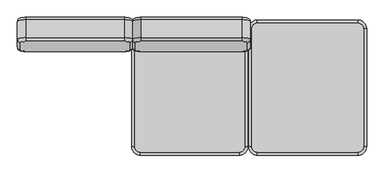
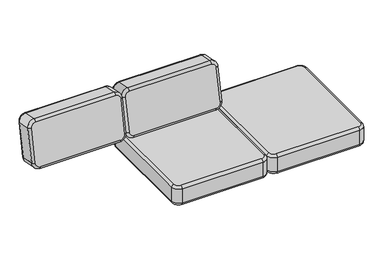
"""IFC4 building model written with IfcOpenShell, lengths in millimetres: furniture geometry, Fredericia - EJ220 Sofa 3 seaters 67 - 2233 : Fredericia - EJ220 Sofa 3 seaters 67 - 2233."""

from ifc_helpers import new_model, si_unit, point, frame, origin, place, context, project, spatial, circle_curve, ellipse_curve, trimmed, source, transform, mapped, element, save
from ifc_brep_helpers import plane_surface, cylinder_surface, revolved_surface, advanced_brep


def furniture_044e4372(model_context):
    return source(origin(), model_context, "Body", "AdvancedBrep", [
        advanced_brep(
        [(-341.0173508, 740.0486118, 455.4641902), (-341.0173508, 636.819047, 475.5299849), (-341.0173508, 681.9225552, 707.5674194), (-341.0173508, 785.1521201, 687.5016246), (-291.0173508, 794.6925699, 736.5829838), (-291.0173508, 691.463005, 756.6487785), (284.3073614, 691.463005, 756.6487785), (284.3073614, 794.6925699, 736.5829838), (334.3073614, 785.1521201, 687.5016246), (334.3073614, 681.9225552, 707.5674194), (334.3073614, 636.819047, 475.5299849), (334.3073614, 740.0486118, 455.4641902), (284.3073614, 730.5081621, 406.382831), (284.3073614, 627.2785972, 426.4486258), (-291.0173508, 627.2785972, 426.4486258), (-291.0173508, 730.5081621, 406.382831), (-323.6851707, 619.8053078, 478.8371208), (-323.6851707, 664.9088161, 710.8745552), (-323.6851707, 802.1658592, 684.1944888), (-323.6851707, 757.062351, 452.1570543), (-291.0173508, 671.14213, 742.9421753), (284.3073614, 671.14213, 742.9421753), (284.3073614, 808.3991731, 716.2621088), (-291.0173508, 808.3991731, 716.2621088), (316.9751814, 664.9088161, 710.8745552), (316.9751814, 619.8053078, 478.8371208), (316.9751814, 757.062351, 452.1570543), (316.9751814, 802.1658592, 684.1944888), (284.3073614, 613.5719939, 446.7695007), (-291.0173508, 613.5719939, 446.7695007), (-291.0173508, 750.8290371, 420.0894343), (284.3073614, 750.8290371, 420.0894343)],
        [
            (0, 1),
            (1, 2),
            (2, 3),
            (3, 0),
            (4, 5),
            (5, 6),
            (6, 7),
            (7, 4),
            (8, 9),
            (9, 10),
            (10, 11),
            (11, 8),
            (12, 13),
            (13, 14),
            (14, 15),
            (15, 12),
            (1, 16, circle_curve(frame((-323.6851707, 636.819047, 475.5299849), z_axis=(0.0, 0.19080899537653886, 0.9816271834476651), x_axis=(1.0, 0.0, 0.0)), 17.3321801)),
            (16, 17),
            (17, 2, circle_curve(frame((-323.6851707, 681.9225552, 707.5674194), z_axis=(0.0, -0.19080899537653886, -0.9816271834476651), x_axis=(1.0, 0.0, 0.0)), 17.3321801)),
            (3, 18, circle_curve(frame((-323.6851707, 785.1521201, 687.5016246), z_axis=(0.0, -0.1908089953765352, -0.981627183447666), x_axis=(1.0, 0.0, 0.0)), 17.3321801)),
            (18, 19),
            (19, 0, circle_curve(frame((-323.6851707, 740.0486118, 455.4641902), z_axis=(0.0, 0.1908089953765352, 0.981627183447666), x_axis=(1.0, 0.0, 0.0)), 17.3321801)),
            (5, 20, circle_curve(frame((-291.0173508, 688.1558691, 739.6350394), z_axis=(1.0, 0.0, 0.0), x_axis=(0.0, -0.1908089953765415, -0.9816271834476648)), 17.3321801)),
            (20, 21),
            (21, 6, circle_curve(frame((284.3073614, 688.1558691, 739.6350394), z_axis=(-1.0, 0.0, 0.0), x_axis=(0.0, -0.1908089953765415, -0.9816271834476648)), 17.3321801)),
            (7, 22, circle_curve(frame((284.3073614, 791.385434, 719.5692447), z_axis=(-1.0, 0.0, 0.0), x_axis=(0.0, -0.19080899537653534, -0.9816271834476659)), 17.3321801)),
            (22, 23),
            (23, 4, circle_curve(frame((-291.0173508, 791.385434, 719.5692447), z_axis=(1.0, 0.0, 0.0), x_axis=(0.0, -0.19080899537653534, -0.9816271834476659)), 17.3321801)),
            (9, 24, circle_curve(frame((316.9751814, 681.9225552, 707.5674194), z_axis=(0.0, -0.1908089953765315, -0.9816271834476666), x_axis=(-1.0, 0.0, 0.0)), 17.3321801)),
            (24, 25),
            (25, 10, circle_curve(frame((316.9751814, 636.819047, 475.5299849), z_axis=(0.0, 0.1908089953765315, 0.9816271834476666), x_axis=(-1.0, 0.0, 0.0)), 17.3321801)),
            (11, 26, circle_curve(frame((316.9751814, 740.0486118, 455.4641902), z_axis=(0.0, 0.19080899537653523, 0.981627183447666), x_axis=(-1.0, 0.0, 0.0)), 17.3321801)),
            (26, 27),
            (27, 8, circle_curve(frame((316.9751814, 785.1521201, 687.5016246), z_axis=(0.0, -0.19080899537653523, -0.981627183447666), x_axis=(-1.0, 0.0, 0.0)), 17.3321801)),
            (13, 28, circle_curve(frame((284.3073614, 630.585733, 443.4623649), z_axis=(-1.0, 0.0, 0.0), x_axis=(0.0, 0.19080899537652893, 0.9816271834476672)), 17.3321801)),
            (28, 29),
            (29, 14, circle_curve(frame((-291.0173508, 630.585733, 443.4623649), z_axis=(1.0, 0.0, 0.0), x_axis=(0.0, 0.19080899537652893, 0.9816271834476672)), 17.3321801)),
            (15, 30, circle_curve(frame((-291.0173508, 733.8152979, 423.3965701), z_axis=(1.0, 0.0, 0.0), x_axis=(0.0, 0.1908089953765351, 0.9816271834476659)), 17.3321801)),
            (30, 31),
            (31, 12, circle_curve(frame((284.3073614, 733.8152979, 423.3965701), z_axis=(-1.0, 0.0, 0.0), x_axis=(0.0, 0.1908089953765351, 0.9816271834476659)), 17.3321801)),
            (1, 14, circle_curve(frame((-291.0173508, 636.819047, 475.5299849), z_axis=(0.0, -0.9816271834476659, 0.1908089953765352), x_axis=(0.0, -0.1908089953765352, -0.9816271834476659)), 50.0)),
            (29, 16, circle_curve(frame((-291.0173508, 619.8053078, 478.8371208), z_axis=(0.0, 0.9816271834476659, -0.1908089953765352), x_axis=(0.0, -0.1908089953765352, -0.9816271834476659)), 32.6678199)),
            (0, 15, circle_curve(frame((-291.0173508, 740.0486118, 455.4641902), z_axis=(0.0, -0.9816271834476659, 0.1908089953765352), x_axis=(0.0, -0.1908089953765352, -0.9816271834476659)), 50.0)),
            (19, 30, circle_curve(frame((-291.0173508, 757.062351, 452.1570543), z_axis=(0.0, -0.9816271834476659, 0.1908089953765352), x_axis=(0.0, -0.1908089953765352, -0.9816271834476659)), 32.6678199)),
            (17, 20, circle_curve(frame((-291.0173508, 664.9088161, 710.8745552), z_axis=(0.0, 0.9816271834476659, -0.1908089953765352), x_axis=(-1.0, 0.0, 0.0)), 32.6678199)),
            (5, 2, circle_curve(frame((-291.0173508, 681.9225552, 707.5674194), z_axis=(0.0, -0.9816271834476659, 0.1908089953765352), x_axis=(-1.0, 0.0, 0.0)), 50.0)),
            (4, 3, circle_curve(frame((-291.0173508, 785.1521201, 687.5016246), z_axis=(0.0, -0.9816271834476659, 0.1908089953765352), x_axis=(-1.0, 0.0, 0.0)), 50.0)),
            (23, 18, circle_curve(frame((-291.0173508, 802.1658592, 684.1944888), z_axis=(0.0, -0.9816271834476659, 0.1908089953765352), x_axis=(-1.0, 0.0, 0.0)), 32.6678199)),
            (21, 24, circle_curve(frame((284.3073614, 664.9088161, 710.8745552), z_axis=(0.0, 0.9816271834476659, -0.1908089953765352), x_axis=(0.0, 0.1908089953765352, 0.9816271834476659)), 32.6678199)),
            (9, 6, circle_curve(frame((284.3073614, 681.9225552, 707.5674194), z_axis=(0.0, -0.9816271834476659, 0.1908089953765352), x_axis=(0.0, 0.1908089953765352, 0.9816271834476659)), 50.0)),
            (8, 7, circle_curve(frame((284.3073614, 785.1521201, 687.5016246), z_axis=(0.0, -0.9816271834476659, 0.1908089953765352), x_axis=(0.0, 0.1908089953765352, 0.9816271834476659)), 50.0)),
            (27, 22, circle_curve(frame((284.3073614, 802.1658592, 684.1944888), z_axis=(0.0, -0.9816271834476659, 0.1908089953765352), x_axis=(0.0, 0.1908089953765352, 0.9816271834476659)), 32.6678199)),
            (28, 25, circle_curve(frame((284.3073614, 619.8053078, 478.8371208), z_axis=(0.0, -0.9816271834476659, 0.1908089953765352), x_axis=(1.0, 0.0, 0.0)), 32.6678199)),
            (13, 10, circle_curve(frame((284.3073614, 636.819047, 475.5299849), z_axis=(0.0, -0.9816271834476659, 0.1908089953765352), x_axis=(1.0, 0.0, 0.0)), 50.0)),
            (12, 11, circle_curve(frame((284.3073614, 740.0486118, 455.4641902), z_axis=(0.0, -0.9816271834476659, 0.1908089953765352), x_axis=(1.0, 0.0, 0.0)), 50.0)),
            (31, 26, circle_curve(frame((284.3073614, 757.062351, 452.1570543), z_axis=(0.0, -0.9816271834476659, 0.1908089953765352), x_axis=(1.0, 0.0, 0.0)), 32.6678199)),
        ],
        [
            plane_surface(frame((-341.0173508, 636.819047, 475.5299849), z_axis=(-1.0, 0.0, 0.0), x_axis=(0.0, 0.19080899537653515, 0.9816271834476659))),
            plane_surface(frame((-291.0173508, 691.463005, 756.6487785), z_axis=(0.0, 0.19080899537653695, 0.9816271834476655), x_axis=(1.0, 0.0, 0.0))),
            plane_surface(frame((334.3073614, 681.9225552, 707.5674194), z_axis=(1.0, 0.0, 0.0), x_axis=(0.0, -0.19080899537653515, -0.9816271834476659))),
            plane_surface(frame((284.3073614, 627.2785972, 426.4486258), z_axis=(0.0, -0.19080899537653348, -0.9816271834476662), x_axis=(-1.0, 0.0, 0.0))),
            cylinder_surface(frame((-323.6851707, 636.819047, 475.5299849), z_axis=(0.0, -0.19080899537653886, -0.9816271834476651), x_axis=(1.0, 0.0, 0.0)), 17.3321801),
            cylinder_surface(frame((-323.6851707, 740.0486118, 455.4641902), z_axis=(0.0, -0.19080899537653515, -0.9816271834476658), x_axis=(1.0, 0.0, 0.0)), 17.3321801),
            cylinder_surface(frame((-291.0173508, 688.1558691, 739.6350394), z_axis=(-1.0000000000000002, 0.0, 0.0), x_axis=(0.0, -0.1908089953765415, -0.9816271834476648)), 17.3321801),
            cylinder_surface(frame((-291.0173508, 791.385434, 719.5692447), z_axis=(-1.0000000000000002, 0.0, 0.0), x_axis=(0.0, -0.19080899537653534, -0.9816271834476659)), 17.3321801),
            cylinder_surface(frame((316.9751814, 681.9225552, 707.5674194), z_axis=(0.0, 0.1908089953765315, 0.9816271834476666), x_axis=(-1.0, 0.0, 0.0)), 17.3321801),
            cylinder_surface(frame((316.9751814, 785.1521201, 687.5016246), z_axis=(0.0, 0.19080899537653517, 0.9816271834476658), x_axis=(-1.0, 0.0, 0.0)), 17.3321801),
            cylinder_surface(frame((284.3073614, 630.585733, 443.4623649), z_axis=(1.0, 0.0, 0.0), x_axis=(0.0, 0.19080899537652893, 0.9816271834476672)), 17.3321801),
            cylinder_surface(frame((284.3073614, 733.8152979, 423.3965701), z_axis=(1.0, 0.0, 0.0), x_axis=(0.0, 0.1908089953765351, 0.9816271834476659)), 17.3321801),
            revolved_surface(trimmed(ellipse_curve(frame((-291.0173508, 630.585733, 443.4623649), z_axis=(1.0000000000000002, 0.0, 0.0), x_axis=(0.0, 0.19080899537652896, 0.9816271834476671)), 17.3321801, 17.3321801), [point((-291.0173508, 613.5719939, 446.7695007))], [point((-291.0173508, 627.2785972, 426.4486258))], True, "CARTESIAN"), (-291.0173508, 801.1332803, 443.5905334), (0.0, 0.9816271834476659, -0.1908089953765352)),
            cylinder_surface(frame((-291.0173508, 801.1332803, 443.5905334), z_axis=(0.0, 0.9816271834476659, -0.1908089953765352), x_axis=(0.0, -0.1908089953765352, -0.9816271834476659)), 50.0),
            revolved_surface(trimmed(ellipse_curve(frame((-291.0173508, 733.8152979, 423.3965701), z_axis=(1.0000000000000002, 0.0, 0.0), x_axis=(0.0, 0.19080899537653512, 0.9816271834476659)), 17.3321801, 17.3321801), [point((-291.0173508, 730.5081621, 406.382831))], [point((-291.0173508, 750.8290371, 420.0894343))], True, "CARTESIAN"), (-291.0173508, 801.1332803, 443.5905334), (0.0, 0.9816271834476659, -0.1908089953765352)),
            revolved_surface(trimmed(ellipse_curve(frame((-323.6851707, 681.9225552, 707.5674194), z_axis=(0.0, -0.1908089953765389, -0.9816271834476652), x_axis=(1.0, 0.0, 0.0)), 17.3321801, 17.3321801), [point((-323.6851707, 664.9088161, 710.8745552))], [point((-341.0173508, 681.9225552, 707.5674194))], True, "CARTESIAN"), (-291.0173508, 846.2367886, 675.6279679), (0.0, 0.9816271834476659, -0.1908089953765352)),
            cylinder_surface(frame((-291.0173508, 846.2367886, 675.6279679), z_axis=(0.0, 0.9816271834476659, -0.1908089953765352), x_axis=(-1.0, 0.0, 0.0)), 50.0),
            revolved_surface(trimmed(ellipse_curve(frame((-323.6851707, 785.1521201, 687.5016246), z_axis=(0.0, -0.19080899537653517, -0.9816271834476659), x_axis=(1.0, 0.0, 0.0)), 17.3321801, 17.3321801), [point((-341.0173508, 785.1521201, 687.5016246))], [point((-323.6851707, 802.1658592, 684.1944888))], True, "CARTESIAN"), (-291.0173508, 846.2367886, 675.6279679), (0.0, 0.9816271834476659, -0.1908089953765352)),
            revolved_surface(trimmed(ellipse_curve(frame((284.3073614, 688.1558691, 739.6350394), z_axis=(-1.0000000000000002, 0.0, 0.0), x_axis=(0.0, -0.19080899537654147, -0.9816271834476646)), 17.3321801, 17.3321801), [point((284.3073614, 671.14213, 742.9421753))], [point((284.3073614, 691.463005, 756.6487785))], True, "CARTESIAN"), (284.3073614, 846.2367886, 675.6279679), (0.0, 0.9816271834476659, -0.1908089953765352)),
            cylinder_surface(frame((284.3073614, 846.2367886, 675.6279679), z_axis=(0.0, 0.9816271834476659, -0.1908089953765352), x_axis=(0.0, 0.1908089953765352, 0.9816271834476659)), 50.0),
            revolved_surface(trimmed(ellipse_curve(frame((284.3073614, 791.385434, 719.5692447), z_axis=(-1.0000000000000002, 0.0, 0.0), x_axis=(0.0, -0.19080899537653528, -0.9816271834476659)), 17.3321801, 17.3321801), [point((284.3073614, 794.6925699, 736.5829838))], [point((284.3073614, 808.3991731, 716.2621088))], True, "CARTESIAN"), (284.3073614, 846.2367886, 675.6279679), (0.0, 0.9816271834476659, -0.1908089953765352)),
            plane_surface(frame((284.3073614, 619.8053078, 478.8371208), z_axis=(0.0, -0.9816271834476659, 0.1908089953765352), x_axis=(1.0, 0.0, 0.0))),
            revolved_surface(trimmed(ellipse_curve(frame((316.9751814, 636.819047, 475.5299849), z_axis=(0.0, 0.19080899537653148, 0.9816271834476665), x_axis=(-1.0, 0.0, 0.0)), 17.3321801, 17.3321801), [point((316.9751814, 619.8053078, 478.8371208))], [point((334.3073614, 636.819047, 475.5299849))], True, "CARTESIAN"), (284.3073614, 801.1332803, 443.5905334), (0.0, 0.9816271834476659, -0.1908089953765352)),
            cylinder_surface(frame((284.3073614, 801.1332803, 443.5905334), z_axis=(0.0, 0.9816271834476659, -0.1908089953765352), x_axis=(1.0, 0.0, 0.0)), 50.0),
            revolved_surface(trimmed(ellipse_curve(frame((316.9751814, 740.0486118, 455.4641902), z_axis=(0.0, 0.1908089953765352, 0.9816271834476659), x_axis=(-1.0, 0.0, 0.0)), 17.3321801, 17.3321801), [point((334.3073614, 740.0486118, 455.4641902))], [point((316.9751814, 757.062351, 452.1570543))], True, "CARTESIAN"), (284.3073614, 801.1332803, 443.5905334), (0.0, 0.9816271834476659, -0.1908089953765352)),
            plane_surface(frame((284.3073614, 757.062351, 452.1570543), z_axis=(0.0, 0.9816271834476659, -0.1908089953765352), x_axis=(1.0, 0.0, 0.0))),
        ],
        [
            (0, [[1, 2, 3, 4]]),
            (1, [[5, 6, 7, 8]]),
            (2, [[9, 10, 11, 12]]),
            (3, [[13, 14, 15, 16]]),
            (4, [[-2, 17, 18, 19]]),
            (5, [[-4, 20, 21, 22]]),
            (6, [[-6, 23, 24, 25]]),
            (7, [[-8, 26, 27, 28]]),
            (8, [[-10, 29, 30, 31]]),
            (9, [[-12, 32, 33, 34]]),
            (10, [[-14, 35, 36, 37]]),
            (11, [[-16, 38, 39, 40]]),
            (12, [[-17, 41, -37, 42]]),
            (13, [[-1, 43, -15, -41]]),
            (14, [[-22, 44, -38, -43]]),
            (15, [[-19, 45, -23, 46]]),
            (16, [[-3, -46, -5, 47]]),
            (17, [[-20, -47, -28, 48]]),
            (18, [[-25, 49, -29, 50]]),
            (19, [[-7, -50, -9, 51]]),
            (20, [[-26, -51, -34, 52]]),
            (21, [[-18, -42, -36, 53, -30, -49, -24, -45]]),
            (22, [[-31, -53, -35, 54]]),
            (23, [[-11, -54, -13, 55]]),
            (24, [[-32, -55, -40, 56]]),
            (25, [[-21, -48, -27, -52, -33, -56, -39, -44]]),
        ],
    ),
        advanced_brep(
        [(-356.3148293, 619.8100699, 478.8361951), (-356.3148293, 664.9135782, 710.8736296), (-388.9826492, 671.1468921, 742.9412497), (-949.6320736, 671.1468921, 742.9412497), (-982.2998936, 664.9135782, 710.8736296), (-982.2998936, 619.8100699, 478.8361951), (-949.6320736, 613.576756, 446.7685751), (-388.9826492, 613.576756, 446.7685751), (-356.3148293, 802.1658592, 684.1944888), (-356.3148293, 757.062351, 452.1570543), (-388.9826492, 750.8290371, 420.0894343), (-949.6320736, 750.8290371, 420.0894343), (-982.2998936, 757.062351, 452.1570543), (-982.2998936, 802.1658592, 684.1944888), (-949.6320736, 808.3991731, 716.2621088), (-388.9826492, 808.3991731, 716.2621088), (-338.9826492, 636.819047, 475.5299849), (-338.9826492, 740.0486118, 455.4641902), (-338.9826492, 785.1521201, 687.5016246), (-338.9826492, 681.9225552, 707.5674194), (-388.9826492, 691.463005, 756.6487785), (-388.9826492, 794.6925699, 736.5829838), (-949.6320736, 794.6925699, 736.5829838), (-949.6320736, 691.463005, 756.6487785), (-999.6320736, 681.9225552, 707.5674194), (-999.6320736, 785.1521201, 687.5016246), (-999.6320736, 740.0486118, 455.4641902), (-999.6320736, 636.819047, 475.5299849), (-949.6320736, 627.2785972, 426.4486258), (-949.6320736, 730.5081621, 406.382831), (-388.9826492, 730.5081621, 406.382831), (-388.9826492, 627.2785972, 426.4486258)],
        [
            (0, 1),
            (1, 2, circle_curve(frame((-388.9826492, 664.9135782, 710.8736296), z_axis=(0.0, -0.9816271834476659, 0.1908089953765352), x_axis=(1.0, 0.0, 0.0)), 32.6678199)),
            (2, 3),
            (3, 4, circle_curve(frame((-949.6320736, 664.9135782, 710.8736296), z_axis=(0.0, -0.9816271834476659, 0.1908089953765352), x_axis=(0.0, 0.1908089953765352, 0.9816271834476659)), 32.6678199)),
            (4, 5),
            (5, 6, circle_curve(frame((-949.6320736, 619.8100699, 478.8361951), z_axis=(0.0, -0.9816271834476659, 0.1908089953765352), x_axis=(-1.0, 0.0, 0.0)), 32.6678199)),
            (6, 7),
            (7, 0, circle_curve(frame((-388.9826492, 619.8100699, 478.8361951), z_axis=(0.0, -0.9816271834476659, 0.1908089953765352), x_axis=(0.0, -0.1908089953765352, -0.9816271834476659)), 32.6678199)),
            (8, 9),
            (9, 10, circle_curve(frame((-388.9826492, 757.062351, 452.1570543), z_axis=(0.0, 0.9816271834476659, -0.1908089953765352), x_axis=(0.0, -0.1908089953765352, -0.9816271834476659)), 32.6678199)),
            (10, 11),
            (11, 12, circle_curve(frame((-949.6320736, 757.062351, 452.1570543), z_axis=(0.0, 0.9816271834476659, -0.1908089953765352), x_axis=(-1.0, 0.0, 0.0)), 32.6678199)),
            (12, 13),
            (13, 14, circle_curve(frame((-949.6320736, 802.1658592, 684.1944888), z_axis=(0.0, 0.9816271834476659, -0.1908089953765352), x_axis=(0.0, 0.1908089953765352, 0.9816271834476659)), 32.6678199)),
            (14, 15),
            (15, 8, circle_curve(frame((-388.9826492, 802.1658592, 684.1944888), z_axis=(0.0, 0.9816271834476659, -0.1908089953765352), x_axis=(1.0, 0.0, 0.0)), 32.6678199)),
            (16, 17),
            (17, 18),
            (18, 19),
            (19, 16),
            (20, 21),
            (21, 22),
            (22, 23),
            (23, 20),
            (24, 25),
            (25, 26),
            (26, 27),
            (27, 24),
            (28, 29),
            (29, 30),
            (30, 31),
            (31, 28),
            (19, 1, circle_curve(frame((-356.3148293, 681.9225552, 707.5674194), z_axis=(0.0, -0.19080899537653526, -0.981627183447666), x_axis=(1.0, 0.0, 0.0)), 17.3321801)),
            (0, 16, circle_curve(frame((-356.3148293, 636.819047, 475.5299849), z_axis=(0.0, 0.19080899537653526, 0.981627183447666), x_axis=(1.0, 0.0, 0.0)), 17.3321801)),
            (17, 9, circle_curve(frame((-356.3148293, 740.0486118, 455.4641902), z_axis=(0.0, 0.19080899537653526, 0.981627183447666), x_axis=(1.0, 0.0, 0.0)), 17.3321801)),
            (8, 18, circle_curve(frame((-356.3148293, 785.1521201, 687.5016246), z_axis=(0.0, -0.19080899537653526, -0.981627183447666), x_axis=(1.0, 0.0, 0.0)), 17.3321801)),
            (23, 3, circle_curve(frame((-949.6320736, 688.1558691, 739.6350394), z_axis=(1.0, 0.0, 0.0), x_axis=(0.0, 0.19080899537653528, 0.9816271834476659)), 17.3321801)),
            (2, 20, circle_curve(frame((-388.9826492, 688.1558691, 739.6350394), z_axis=(-1.0, 0.0, 0.0), x_axis=(0.0, 0.19080899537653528, 0.9816271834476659)), 17.3321801)),
            (21, 15, circle_curve(frame((-388.9826492, 791.385434, 719.5692447), z_axis=(-1.0, 0.0, 0.0), x_axis=(0.0, 0.19080899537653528, 0.9816271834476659)), 17.3321801)),
            (14, 22, circle_curve(frame((-949.6320736, 791.385434, 719.5692447), z_axis=(1.0, 0.0, 0.0), x_axis=(0.0, 0.19080899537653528, 0.9816271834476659)), 17.3321801)),
            (27, 5, circle_curve(frame((-982.2998936, 636.819047, 475.5299849), z_axis=(0.0, 0.19080899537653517, 0.981627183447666), x_axis=(-1.0, 0.0, 0.0)), 17.3321801)),
            (4, 24, circle_curve(frame((-982.2998936, 681.9225552, 707.5674194), z_axis=(0.0, -0.19080899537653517, -0.981627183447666), x_axis=(-1.0, 0.0, 0.0)), 17.3321801)),
            (25, 13, circle_curve(frame((-982.2998936, 785.1521201, 687.5016246), z_axis=(0.0, -0.19080899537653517, -0.981627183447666), x_axis=(-1.0, 0.0, 0.0)), 17.3321801)),
            (12, 26, circle_curve(frame((-982.2998936, 740.0486118, 455.4641902), z_axis=(0.0, 0.19080899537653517, 0.981627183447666), x_axis=(-1.0, 0.0, 0.0)), 17.3321801)),
            (31, 7, circle_curve(frame((-388.9826492, 630.585733, 443.4623649), z_axis=(-1.0, 0.0, 0.0), x_axis=(0.0, -0.1908089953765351, -0.9816271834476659)), 17.3321801)),
            (6, 28, circle_curve(frame((-949.6320736, 630.585733, 443.4623649), z_axis=(1.0, 0.0, 0.0), x_axis=(0.0, -0.1908089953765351, -0.9816271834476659)), 17.3321801)),
            (29, 11, circle_curve(frame((-949.6320736, 733.8152979, 423.3965701), z_axis=(1.0, 0.0, 0.0), x_axis=(0.0, -0.1908089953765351, -0.9816271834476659)), 17.3321801)),
            (10, 30, circle_curve(frame((-388.9826492, 733.8152979, 423.3965701), z_axis=(-1.0, 0.0, 0.0), x_axis=(0.0, -0.1908089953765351, -0.9816271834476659)), 17.3321801)),
            (31, 16, circle_curve(frame((-388.9826492, 636.819047, 475.5299849), z_axis=(0.0, -0.9816271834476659, 0.1908089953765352), x_axis=(0.0, -0.1908089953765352, -0.9816271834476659)), 50.0)),
            (30, 17, circle_curve(frame((-388.9826492, 740.0486118, 455.4641902), z_axis=(0.0, -0.9816271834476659, 0.1908089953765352), x_axis=(0.0, -0.1908089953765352, -0.9816271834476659)), 50.0)),
            (19, 20, circle_curve(frame((-388.9826492, 681.9225552, 707.5674194), z_axis=(0.0, -0.9816271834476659, 0.1908089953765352), x_axis=(1.0, 0.0, 0.0)), 50.0)),
            (18, 21, circle_curve(frame((-388.9826492, 785.1521201, 687.5016246), z_axis=(0.0, -0.9816271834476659, 0.1908089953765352), x_axis=(1.0, 0.0, 0.0)), 50.0)),
            (23, 24, circle_curve(frame((-949.6320736, 681.9225552, 707.5674194), z_axis=(0.0, -0.9816271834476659, 0.1908089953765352), x_axis=(0.0, 0.1908089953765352, 0.9816271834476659)), 50.0)),
            (22, 25, circle_curve(frame((-949.6320736, 785.1521201, 687.5016246), z_axis=(0.0, -0.9816271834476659, 0.1908089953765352), x_axis=(0.0, 0.1908089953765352, 0.9816271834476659)), 50.0)),
            (27, 28, circle_curve(frame((-949.6320736, 636.819047, 475.5299849), z_axis=(0.0, -0.9816271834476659, 0.1908089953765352), x_axis=(-1.0, 0.0, 0.0)), 50.0)),
            (26, 29, circle_curve(frame((-949.6320736, 740.0486118, 455.4641902), z_axis=(0.0, -0.9816271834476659, 0.1908089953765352), x_axis=(-1.0, 0.0, 0.0)), 50.0)),
        ],
        [
            plane_surface(frame((-388.9826492, 659.1893083, 681.4248141), z_axis=(0.0, -0.9816271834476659, 0.1908089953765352), x_axis=(1.0, 0.0, 0.0))),
            plane_surface(frame((-388.9826492, 796.4415893, 654.7456733), z_axis=(0.0, 0.9816271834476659, -0.1908089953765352), x_axis=(-1.0, 0.0, 0.0))),
            plane_surface(frame((-338.9826492, 740.0486118, 455.4641902), z_axis=(1.0, 0.0, 0.0), x_axis=(0.0, 0.19080899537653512, 0.9816271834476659))),
            plane_surface(frame((-388.9826492, 794.6925699, 736.5829838), z_axis=(0.0, 0.1908089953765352, 0.9816271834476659), x_axis=(-1.0, 0.0, 0.0))),
            plane_surface(frame((-999.6320736, 785.1521201, 687.5016246), z_axis=(-1.0, 0.0, 0.0), x_axis=(0.0, -0.19080899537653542, -0.9816271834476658))),
            plane_surface(frame((-949.6320736, 730.5081621, 406.382831), z_axis=(0.0, -0.19080899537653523, -0.9816271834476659), x_axis=(1.0, 0.0, 0.0))),
            cylinder_surface(frame((-356.3148293, 636.819047, 475.5299849), z_axis=(0.0, -0.1908089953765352, -0.9816271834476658), x_axis=(1.0, 0.0, 0.0)), 17.3321801),
            cylinder_surface(frame((-356.3148293, 740.0486118, 455.4641902), z_axis=(0.0, -0.1908089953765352, -0.9816271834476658), x_axis=(1.0, 0.0, 0.0)), 17.3321801),
            cylinder_surface(frame((-388.9826492, 688.1558691, 739.6350394), z_axis=(1.0000000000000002, 0.0, 0.0), x_axis=(0.0, 0.19080899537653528, 0.9816271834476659)), 17.3321801),
            cylinder_surface(frame((-388.9826492, 791.385434, 719.5692447), z_axis=(1.0000000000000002, 0.0, 0.0), x_axis=(0.0, 0.19080899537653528, 0.9816271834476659)), 17.3321801),
            cylinder_surface(frame((-982.2998936, 681.9225552, 707.5674194), z_axis=(0.0, 0.19080899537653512, 0.9816271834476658), x_axis=(-1.0, 0.0, 0.0)), 17.3321801),
            cylinder_surface(frame((-982.2998936, 785.1521201, 687.5016246), z_axis=(0.0, 0.19080899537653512, 0.9816271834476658), x_axis=(-1.0, 0.0, 0.0)), 17.3321801),
            cylinder_surface(frame((-949.6320736, 630.585733, 443.4623649), z_axis=(-1.0, 0.0, 0.0), x_axis=(0.0, -0.1908089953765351, -0.9816271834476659)), 17.3321801),
            cylinder_surface(frame((-949.6320736, 733.8152979, 423.3965701), z_axis=(-1.0, 0.0, 0.0), x_axis=(0.0, -0.1908089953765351, -0.9816271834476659)), 17.3321801),
            revolved_surface(trimmed(ellipse_curve(frame((-388.9826492, 630.585733, 443.4623649), z_axis=(-1.0000000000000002, 0.0, 0.0), x_axis=(0.0, -0.19080899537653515, -0.9816271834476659)), 17.3321801, 17.3321801), [point((-388.9826492, 627.2785972, 426.4486258))], [point((-388.9826492, 613.5719939, 446.7695007))], True, "CARTESIAN"), (-388.9826492, 801.1332803, 443.5905334), (0.0, -0.9816271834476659, 0.1908089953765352)),
            cylinder_surface(frame((-388.9826492, 801.1332803, 443.5905334), z_axis=(0.0, -0.9816271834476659, 0.1908089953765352), x_axis=(0.0, -0.1908089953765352, -0.9816271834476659)), 50.0),
            revolved_surface(trimmed(ellipse_curve(frame((-388.9826492, 733.8152979, 423.3965701), z_axis=(-1.0000000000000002, 0.0, 0.0), x_axis=(0.0, -0.19080899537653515, -0.9816271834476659)), 17.3321801, 17.3321801), [point((-388.9826492, 750.8290371, 420.0894343))], [point((-388.9826492, 730.5081621, 406.382831))], True, "CARTESIAN"), (-388.9826492, 801.1332803, 443.5905334), (0.0, -0.9816271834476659, 0.1908089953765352)),
            revolved_surface(trimmed(ellipse_curve(frame((-356.3148293, 681.9225552, 707.5674194), z_axis=(0.0, -0.19080899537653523, -0.9816271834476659), x_axis=(1.0, 0.0, 0.0)), 17.3321801, 17.3321801), [point((-338.9826492, 681.9225552, 707.5674194))], [point((-356.3148293, 664.9088161, 710.8745552))], True, "CARTESIAN"), (-388.9826492, 846.2367886, 675.6279679), (0.0, -0.9816271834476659, 0.1908089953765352)),
            cylinder_surface(frame((-388.9826492, 846.2367886, 675.6279679), z_axis=(0.0, -0.9816271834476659, 0.1908089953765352), x_axis=(1.0, 0.0, 0.0)), 50.0),
            revolved_surface(trimmed(ellipse_curve(frame((-356.3148293, 785.1521201, 687.5016246), z_axis=(0.0, -0.19080899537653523, -0.9816271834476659), x_axis=(1.0, 0.0, 0.0)), 17.3321801, 17.3321801), [point((-356.3148293, 802.1658592, 684.1944888))], [point((-338.9826492, 785.1521201, 687.5016246))], True, "CARTESIAN"), (-388.9826492, 846.2367886, 675.6279679), (0.0, -0.9816271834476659, 0.1908089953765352)),
            revolved_surface(trimmed(ellipse_curve(frame((-949.6320736, 688.1558691, 739.6350394), z_axis=(1.0000000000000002, 0.0, 0.0), x_axis=(0.0, 0.19080899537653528, 0.9816271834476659)), 17.3321801, 17.3321801), [point((-949.6320736, 691.463005, 756.6487785))], [point((-949.6320736, 671.14213, 742.9421753))], True, "CARTESIAN"), (-949.6320736, 846.2367886, 675.6279679), (0.0, -0.9816271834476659, 0.1908089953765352)),
            cylinder_surface(frame((-949.6320736, 846.2367886, 675.6279679), z_axis=(0.0, -0.9816271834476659, 0.1908089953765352), x_axis=(0.0, 0.1908089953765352, 0.9816271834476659)), 50.0),
            revolved_surface(trimmed(ellipse_curve(frame((-949.6320736, 791.385434, 719.5692447), z_axis=(1.0000000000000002, 0.0, 0.0), x_axis=(0.0, 0.19080899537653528, 0.9816271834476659)), 17.3321801, 17.3321801), [point((-949.6320736, 808.3991731, 716.2621088))], [point((-949.6320736, 794.6925699, 736.5829838))], True, "CARTESIAN"), (-949.6320736, 846.2367886, 675.6279679), (0.0, -0.9816271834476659, 0.1908089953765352)),
            revolved_surface(trimmed(ellipse_curve(frame((-982.2998936, 636.819047, 475.5299849), z_axis=(0.0, 0.19080899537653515, 0.9816271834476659), x_axis=(-1.0, 0.0, 0.0)), 17.3321801, 17.3321801), [point((-999.6320736, 636.819047, 475.5299849))], [point((-982.2998936, 619.8053078, 478.8371208))], True, "CARTESIAN"), (-949.6320736, 801.1332803, 443.5905334), (0.0, -0.9816271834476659, 0.1908089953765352)),
            cylinder_surface(frame((-949.6320736, 801.1332803, 443.5905334), z_axis=(0.0, -0.9816271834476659, 0.1908089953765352), x_axis=(-1.0, 0.0, 0.0)), 50.0),
            revolved_surface(trimmed(ellipse_curve(frame((-982.2998936, 740.0486118, 455.4641902), z_axis=(0.0, 0.19080899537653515, 0.9816271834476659), x_axis=(-1.0, 0.0, 0.0)), 17.3321801, 17.3321801), [point((-982.2998936, 757.062351, 452.1570543))], [point((-999.6320736, 740.0486118, 455.4641902))], True, "CARTESIAN"), (-949.6320736, 801.1332803, 443.5905334), (0.0, -0.9816271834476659, 0.1908089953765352)),
        ],
        [
            (0, [[1, 2, 3, 4, 5, 6, 7, 8]]),
            (1, [[9, 10, 11, 12, 13, 14, 15, 16]]),
            (2, [[17, 18, 19, 20]]),
            (3, [[21, 22, 23, 24]]),
            (4, [[25, 26, 27, 28]]),
            (5, [[29, 30, 31, 32]]),
            (6, [[-20, 33, -1, 34]]),
            (7, [[-18, 35, -9, 36]]),
            (8, [[-24, 37, -3, 38]]),
            (9, [[-22, 39, -15, 40]]),
            (10, [[-28, 41, -5, 42]]),
            (11, [[-26, 43, -13, 44]]),
            (12, [[-32, 45, -7, 46]]),
            (13, [[-30, 47, -11, 48]]),
            (14, [[-34, -8, -45, 49]]),
            (15, [[-17, -49, -31, 50]]),
            (16, [[-35, -50, -48, -10]]),
            (17, [[-33, 51, -38, -2]]),
            (18, [[-19, 52, -21, -51]]),
            (19, [[-36, -16, -39, -52]]),
            (20, [[-37, 53, -42, -4]]),
            (21, [[-23, 54, -25, -53]]),
            (22, [[-40, -14, -43, -54]]),
            (23, [[-41, 55, -46, -6]]),
            (24, [[-27, 56, -29, -55]]),
            (25, [[-44, -12, -47, -56]]),
        ],
    ),
        advanced_brep(
        [(302.2998936, 743.0641303, 290.0), (302.2998936, 67.7, 290.0), (269.6320736, 35.0321801, 290.0), (-295.0, 35.0321801, 290.0), (-327.6678199, 67.7, 290.0), (-327.6678199, 743.0641303, 290.0), (-295.0, 775.7319503, 290.0), (269.6320736, 775.7319503, 290.0), (302.2998936, 67.7, 429.8211901), (302.2998936, 743.0641303, 429.8211901), (269.6320736, 775.7319503, 429.8211901), (-295.0, 775.7319503, 429.8211901), (-327.6678199, 743.0641303, 429.8211901), (-327.6678199, 67.7, 429.8211901), (-295.0, 35.0321801, 429.8211901), (269.6320736, 35.0321801, 429.8211901), (319.6320736, 743.0641303, 307.3273289), (319.6320736, 743.0641303, 412.4890101), (319.6320736, 67.7, 412.4890101), (319.6320736, 67.7, 307.3273289), (269.6320736, 17.7, 307.3273289), (269.6320736, 17.7, 412.4890101), (-295.0, 17.7, 412.4890101), (-295.0, 17.7, 307.3273289), (-345.0, 67.7, 307.3273289), (-345.0, 67.7, 412.4890101), (-345.0, 743.0641303, 412.4890101), (-345.0, 743.0641303, 307.3273289), (-295.0, 793.0641303, 307.3273289), (-295.0, 793.0641303, 412.4890101), (269.6320736, 793.0641303, 412.4890101), (269.6320736, 793.0641303, 307.3273289)],
        [
            (0, 1),
            (1, 2, circle_curve(frame((269.6320736, 67.7, 290.0), z_axis=(0.0, 0.0, -1.0), x_axis=(1.0, 0.0, 0.0)), 32.6678199)),
            (2, 3),
            (3, 4, circle_curve(frame((-295.0, 67.7, 290.0), z_axis=(0.0, 0.0, -1.0), x_axis=(0.0, -1.0, 0.0)), 32.6678199)),
            (4, 5),
            (5, 6, circle_curve(frame((-295.0, 743.0641303, 290.0), z_axis=(0.0, 0.0, -1.0), x_axis=(-1.0, 0.0, 0.0)), 32.6678199)),
            (6, 7),
            (7, 0, circle_curve(frame((269.6320736, 743.0641303, 290.0), z_axis=(0.0, 0.0, -1.0), x_axis=(0.0, 1.0, 0.0)), 32.6678199)),
            (8, 9),
            (9, 10, circle_curve(frame((269.6320736, 743.0641303, 429.8211901), z_axis=(0.0, 0.0, 1.0), x_axis=(0.0, 1.0, 0.0)), 32.6678199)),
            (10, 11),
            (11, 12, circle_curve(frame((-295.0, 743.0641303, 429.8211901), z_axis=(0.0, 0.0, 1.0), x_axis=(-1.0, 0.0, 0.0)), 32.6678199)),
            (12, 13),
            (13, 14, circle_curve(frame((-295.0, 67.7, 429.8211901), z_axis=(0.0, 0.0, 1.0), x_axis=(0.0, -1.0, 0.0)), 32.6678199)),
            (14, 15),
            (15, 8, circle_curve(frame((269.6320736, 67.7, 429.8211901), z_axis=(0.0, 0.0, 1.0), x_axis=(1.0, 0.0, 0.0)), 32.6678199)),
            (16, 17),
            (17, 18),
            (18, 19),
            (19, 16),
            (20, 21),
            (21, 22),
            (22, 23),
            (23, 20),
            (24, 25),
            (25, 26),
            (26, 27),
            (27, 24),
            (28, 29),
            (29, 30),
            (30, 31),
            (31, 28),
            (19, 1, circle_curve(frame((302.2998936, 67.7, 307.3273289), z_axis=(0.0, 1.0, 0.0), x_axis=(-1.0, 0.0, 0.0)), 17.3321801)),
            (0, 16, circle_curve(frame((302.2998936, 743.0641303, 307.3273289), z_axis=(0.0, -1.0, 0.0), x_axis=(-1.0, 0.0, 0.0)), 17.3321801)),
            (17, 9, circle_curve(frame((302.2998936, 743.0641303, 412.4890101), z_axis=(0.0, -1.0, 0.0), x_axis=(-1.0, 0.0, 0.0)), 17.3321801)),
            (8, 18, circle_curve(frame((302.2998936, 67.7, 412.4890101), z_axis=(0.0, 1.0, 0.0), x_axis=(-1.0, 0.0, 0.0)), 17.3321801)),
            (23, 3, circle_curve(frame((-295.0, 35.0321801, 307.3273289), z_axis=(1.0, 0.0, 0.0), x_axis=(0.0, 1.0, 0.0)), 17.3321801)),
            (2, 20, circle_curve(frame((269.6320736, 35.0321801, 307.3273289), z_axis=(-1.0, 0.0, 0.0), x_axis=(0.0, 1.0, 0.0)), 17.3321801)),
            (21, 15, circle_curve(frame((269.6320736, 35.0321801, 412.4890101), z_axis=(-1.0, 0.0, 0.0), x_axis=(0.0, 1.0, 0.0)), 17.3321801)),
            (14, 22, circle_curve(frame((-295.0, 35.0321801, 412.4890101), z_axis=(1.0, 0.0, 0.0), x_axis=(0.0, 1.0, 0.0)), 17.3321801)),
            (27, 5, circle_curve(frame((-327.6678199, 743.0641303, 307.3273289), z_axis=(0.0, -1.0, 0.0), x_axis=(1.0, 0.0, 0.0)), 17.3321801)),
            (4, 24, circle_curve(frame((-327.6678199, 67.7, 307.3273289), z_axis=(0.0, 1.0, 0.0), x_axis=(1.0, 0.0, 0.0)), 17.3321801)),
            (25, 13, circle_curve(frame((-327.6678199, 67.7, 412.4890101), z_axis=(0.0, 1.0, 0.0), x_axis=(1.0, 0.0, 0.0)), 17.3321801)),
            (12, 26, circle_curve(frame((-327.6678199, 743.0641303, 412.4890101), z_axis=(0.0, -1.0, 0.0), x_axis=(1.0, 0.0, 0.0)), 17.3321801)),
            (31, 7, circle_curve(frame((269.6320736, 775.7319503, 307.3273289), z_axis=(-1.0, 0.0, 0.0), x_axis=(0.0, -1.0, 0.0)), 17.3321801)),
            (6, 28, circle_curve(frame((-295.0, 775.7319503, 307.3273289), z_axis=(1.0, 0.0, 0.0), x_axis=(0.0, -1.0, 0.0)), 17.3321801)),
            (29, 11, circle_curve(frame((-295.0, 775.7319503, 412.4890101), z_axis=(1.0, 0.0, 0.0), x_axis=(0.0, -1.0, 0.0)), 17.3321801)),
            (10, 30, circle_curve(frame((269.6320736, 775.7319503, 412.4890101), z_axis=(-1.0, 0.0, 0.0), x_axis=(0.0, -1.0, 0.0)), 17.3321801)),
            (31, 16, circle_curve(frame((269.6320736, 743.0641303, 307.3273289), z_axis=(0.0, 0.0, -1.0), x_axis=(0.0, 1.0, 0.0)), 50.0)),
            (30, 17, circle_curve(frame((269.6320736, 743.0641303, 412.4890101), z_axis=(0.0, 0.0, -1.0), x_axis=(0.0, 1.0, 0.0)), 50.0)),
            (19, 20, circle_curve(frame((269.6320736, 67.7, 307.3273289), z_axis=(0.0, 0.0, -1.0), x_axis=(1.0, 0.0, 0.0)), 50.0)),
            (18, 21, circle_curve(frame((269.6320736, 67.7, 412.4890101), z_axis=(0.0, 0.0, -1.0), x_axis=(1.0, 0.0, 0.0)), 50.0)),
            (23, 24, circle_curve(frame((-295.0, 67.7, 307.3273289), z_axis=(0.0, 0.0, -1.0), x_axis=(0.0, -1.0, 0.0)), 50.0)),
            (22, 25, circle_curve(frame((-295.0, 67.7, 412.4890101), z_axis=(0.0, 0.0, -1.0), x_axis=(0.0, -1.0, 0.0)), 50.0)),
            (27, 28, circle_curve(frame((-295.0, 743.0641303, 307.3273289), z_axis=(0.0, 0.0, -1.0), x_axis=(-1.0, 0.0, 0.0)), 50.0)),
            (26, 29, circle_curve(frame((-295.0, 743.0641303, 412.4890101), z_axis=(0.0, 0.0, -1.0), x_axis=(-1.0, 0.0, 0.0)), 50.0)),
        ],
        [
            plane_surface(frame((239.6320736, 67.7, 290.0), z_axis=(0.0, 0.0, -1.0), x_axis=(0.0, 1.0, 0.0))),
            plane_surface(frame((239.6320736, 67.7, 429.8211901), z_axis=(0.0, 0.0, 1.0), x_axis=(0.0, -1.0, 0.0))),
            plane_surface(frame((319.6320736, 743.0641303, 412.4890101), z_axis=(1.0, 0.0, 0.0), x_axis=(0.0, -1.0, 0.0))),
            plane_surface(frame((269.6320736, 17.7, 412.4890101), z_axis=(0.0, -1.0, 0.0), x_axis=(-1.0, 0.0, 0.0))),
            plane_surface(frame((-345.0, 67.7, 412.4890101), z_axis=(-1.0, 0.0, 0.0), x_axis=(0.0, 1.0, 0.0))),
            plane_surface(frame((-295.0, 793.0641303, 412.4890101), z_axis=(0.0, 1.0, 0.0), x_axis=(1.0, 0.0, 0.0))),
            cylinder_surface(frame((302.2998936, 743.0641303, 307.3273289), z_axis=(0.0, 1.0, 0.0), x_axis=(-1.0, 0.0, 0.0)), 17.3321801),
            cylinder_surface(frame((302.2998936, 743.0641303, 412.4890101), z_axis=(0.0, 1.0, 0.0), x_axis=(-1.0, 0.0, 0.0)), 17.3321801),
            cylinder_surface(frame((269.6320736, 35.0321801, 307.3273289), z_axis=(1.0, 0.0, 0.0), x_axis=(0.0, 1.0, 0.0)), 17.3321801),
            cylinder_surface(frame((269.6320736, 35.0321801, 412.4890101), z_axis=(1.0, 0.0, 0.0), x_axis=(0.0, 1.0, 0.0)), 17.3321801),
            cylinder_surface(frame((-327.6678199, 67.7, 307.3273289), z_axis=(0.0, -1.0, 0.0), x_axis=(1.0, 0.0, 0.0)), 17.3321801),
            cylinder_surface(frame((-327.6678199, 67.7, 412.4890101), z_axis=(0.0, -1.0, 0.0), x_axis=(1.0, 0.0, 0.0)), 17.3321801),
            cylinder_surface(frame((-295.0, 775.7319503, 307.3273289), z_axis=(-1.0, 0.0, 0.0), x_axis=(0.0, -1.0, 0.0)), 17.3321801),
            cylinder_surface(frame((-295.0, 775.7319503, 412.4890101), z_axis=(-1.0, 0.0, 0.0), x_axis=(0.0, -1.0, 0.0)), 17.3321801),
            revolved_surface(trimmed(ellipse_curve(frame((269.6320736, 775.7319503, 307.3273289), z_axis=(-1.0, 0.0, 0.0), x_axis=(0.0, -1.0, 0.0)), 17.3321801, 17.3321801), [point((269.6320736, 793.0641303, 307.3273289))], [point((269.6320736, 775.7319503, 289.9951488))], True, "CARTESIAN"), (269.6320736, 743.0641303, 474.7169816), (0.0, 0.0, -1.0)),
            cylinder_surface(frame((269.6320736, 743.0641303, 474.7169816), z_axis=(0.0, 0.0, -1.0), x_axis=(0.0, 1.0, 0.0)), 50.0),
            revolved_surface(trimmed(ellipse_curve(frame((269.6320736, 775.7319503, 412.4890101), z_axis=(-1.0, 0.0, 0.0), x_axis=(0.0, -1.0, 0.0)), 17.3321801, 17.3321801), [point((269.6320736, 775.7319503, 429.8211901))], [point((269.6320736, 793.0641303, 412.4890101))], True, "CARTESIAN"), (269.6320736, 743.0641303, 474.7169816), (0.0, 0.0, -1.0)),
            revolved_surface(trimmed(ellipse_curve(frame((302.2998936, 67.7, 307.3273289), z_axis=(0.0, 1.0, 0.0), x_axis=(-1.0, 0.0, 0.0)), 17.3321801, 17.3321801), [point((319.6320736, 67.7, 307.3273289))], [point((302.2998936, 67.7, 289.9951488))], True, "CARTESIAN"), (269.6320736, 67.7, 474.7169816), (0.0, 0.0, -1.0)),
            cylinder_surface(frame((269.6320736, 67.7, 474.7169816), z_axis=(0.0, 0.0, -1.0), x_axis=(1.0, 0.0, 0.0)), 50.0),
            revolved_surface(trimmed(ellipse_curve(frame((302.2998936, 67.7, 412.4890101), z_axis=(0.0, 1.0, 0.0), x_axis=(-1.0, 0.0, 0.0)), 17.3321801, 17.3321801), [point((302.2998936, 67.7, 429.8211901))], [point((319.6320736, 67.7, 412.4890101))], True, "CARTESIAN"), (269.6320736, 67.7, 474.7169816), (0.0, 0.0, -1.0)),
            revolved_surface(trimmed(ellipse_curve(frame((-295.0, 35.0321801, 307.3273289), z_axis=(1.0, 0.0, 0.0), x_axis=(0.0, 1.0, 0.0)), 17.3321801, 17.3321801), [point((-295.0, 17.7, 307.3273289))], [point((-295.0, 35.0321801, 289.9951488))], True, "CARTESIAN"), (-295.0, 67.7, 474.7169816), (0.0, 0.0, -1.0)),
            cylinder_surface(frame((-295.0, 67.7, 474.7169816), z_axis=(0.0, 0.0, -1.0), x_axis=(0.0, -1.0, 0.0)), 50.0),
            revolved_surface(trimmed(ellipse_curve(frame((-295.0, 35.0321801, 412.4890101), z_axis=(1.0, 0.0, 0.0), x_axis=(0.0, 1.0, 0.0)), 17.3321801, 17.3321801), [point((-295.0, 35.0321801, 429.8211901))], [point((-295.0, 17.7, 412.4890101))], True, "CARTESIAN"), (-295.0, 67.7, 474.7169816), (0.0, 0.0, -1.0)),
            revolved_surface(trimmed(ellipse_curve(frame((-327.6678199, 743.0641303, 307.3273289), z_axis=(0.0, -1.0, 0.0), x_axis=(1.0, 0.0, 0.0)), 17.3321801, 17.3321801), [point((-345.0, 743.0641303, 307.3273289))], [point((-327.6678199, 743.0641303, 289.9951488))], True, "CARTESIAN"), (-295.0, 743.0641303, 474.7169816), (0.0, 0.0, -1.0)),
            cylinder_surface(frame((-295.0, 743.0641303, 474.7169816), z_axis=(0.0, 0.0, -1.0), x_axis=(-1.0, 0.0, 0.0)), 50.0),
            revolved_surface(trimmed(ellipse_curve(frame((-327.6678199, 743.0641303, 412.4890101), z_axis=(0.0, -1.0, 0.0), x_axis=(1.0, 0.0, 0.0)), 17.3321801, 17.3321801), [point((-327.6678199, 743.0641303, 429.8211901))], [point((-345.0, 743.0641303, 412.4890101))], True, "CARTESIAN"), (-295.0, 743.0641303, 474.7169816), (0.0, 0.0, -1.0)),
        ],
        [
            (0, [[1, 2, 3, 4, 5, 6, 7, 8]]),
            (1, [[9, 10, 11, 12, 13, 14, 15, 16]]),
            (2, [[17, 18, 19, 20]]),
            (3, [[21, 22, 23, 24]]),
            (4, [[25, 26, 27, 28]]),
            (5, [[29, 30, 31, 32]]),
            (6, [[-20, 33, -1, 34]]),
            (7, [[-18, 35, -9, 36]]),
            (8, [[-24, 37, -3, 38]]),
            (9, [[-22, 39, -15, 40]]),
            (10, [[-28, 41, -5, 42]]),
            (11, [[-26, 43, -13, 44]]),
            (12, [[-32, 45, -7, 46]]),
            (13, [[-30, 47, -11, 48]]),
            (14, [[-34, -8, -45, 49]]),
            (15, [[-17, -49, -31, 50]]),
            (16, [[-35, -50, -48, -10]]),
            (17, [[-33, 51, -38, -2]]),
            (18, [[-19, 52, -21, -51]]),
            (19, [[-36, -16, -39, -52]]),
            (20, [[-37, 53, -42, -4]]),
            (21, [[-23, 54, -25, -53]]),
            (22, [[-40, -14, -43, -54]]),
            (23, [[-41, 55, -46, -6]]),
            (24, [[-27, 56, -29, -55]]),
            (25, [[-44, -12, -47, -56]]),
        ],
    ),
        advanced_brep(
        [(982.2998936, 743.0641303, 290.0), (982.2998936, 67.7, 290.0), (949.6320736, 35.0321801, 290.0), (374.3073614, 35.0321801, 290.0), (341.6395415, 67.7, 290.0), (341.6395415, 743.0641303, 290.0), (374.3073614, 775.7319503, 290.0), (949.6320736, 775.7319503, 290.0), (982.2998936, 67.7, 429.8211901), (982.2998936, 743.0641303, 429.8211901), (949.6320736, 775.7319503, 429.8211901), (374.3073614, 775.7319503, 429.8211901), (341.6395415, 743.0641303, 429.8211901), (341.6395415, 67.7, 429.8211901), (374.3073614, 35.0321801, 429.8211901), (949.6320736, 35.0321801, 429.8211901), (999.6320736, 743.0641303, 307.3273289), (999.6320736, 743.0641303, 412.4890101), (999.6320736, 67.7, 412.4890101), (999.6320736, 67.7, 307.3273289), (949.6320736, 17.7, 307.3273289), (949.6320736, 17.7, 412.4890101), (374.3073614, 17.7, 412.4890101), (374.3073614, 17.7, 307.3273289), (324.3073614, 67.7, 307.3273289), (324.3073614, 67.7, 412.4890101), (324.3073614, 743.0641303, 412.4890101), (324.3073614, 743.0641303, 307.3273289), (374.3073614, 793.0641303, 307.3273289), (374.3073614, 793.0641303, 412.4890101), (949.6320736, 793.0641303, 412.4890101), (949.6320736, 793.0641303, 307.3273289)],
        [
            (0, 1),
            (1, 2, circle_curve(frame((949.6320736, 67.7, 290.0), z_axis=(0.0, 0.0, -1.0), x_axis=(1.0, 0.0, 0.0)), 32.6678199)),
            (2, 3),
            (3, 4, circle_curve(frame((374.3073614, 67.7, 290.0), z_axis=(0.0, 0.0, -1.0), x_axis=(0.0, -1.0, 0.0)), 32.6678199)),
            (4, 5),
            (5, 6, circle_curve(frame((374.3073614, 743.0641303, 290.0), z_axis=(0.0, 0.0, -1.0), x_axis=(-1.0, 0.0, 0.0)), 32.6678199)),
            (6, 7),
            (7, 0, circle_curve(frame((949.6320736, 743.0641303, 290.0), z_axis=(0.0, 0.0, -1.0), x_axis=(0.0, 1.0, 0.0)), 32.6678199)),
            (8, 9),
            (9, 10, circle_curve(frame((949.6320736, 743.0641303, 429.8211901), z_axis=(0.0, 0.0, 1.0), x_axis=(0.0, 1.0, 0.0)), 32.6678199)),
            (10, 11),
            (11, 12, circle_curve(frame((374.3073614, 743.0641303, 429.8211901), z_axis=(0.0, 0.0, 1.0), x_axis=(-1.0, 0.0, 0.0)), 32.6678199)),
            (12, 13),
            (13, 14, circle_curve(frame((374.3073614, 67.7, 429.8211901), z_axis=(0.0, 0.0, 1.0), x_axis=(0.0, -1.0, 0.0)), 32.6678199)),
            (14, 15),
            (15, 8, circle_curve(frame((949.6320736, 67.7, 429.8211901), z_axis=(0.0, 0.0, 1.0), x_axis=(1.0, 0.0, 0.0)), 32.6678199)),
            (16, 17),
            (17, 18),
            (18, 19),
            (19, 16),
            (20, 21),
            (21, 22),
            (22, 23),
            (23, 20),
            (24, 25),
            (25, 26),
            (26, 27),
            (27, 24),
            (28, 29),
            (29, 30),
            (30, 31),
            (31, 28),
            (19, 1, circle_curve(frame((982.2998936, 67.7, 307.3273289), z_axis=(0.0, 1.0, 0.0), x_axis=(-1.0, 0.0, 0.0)), 17.3321801)),
            (0, 16, circle_curve(frame((982.2998936, 743.0641303, 307.3273289), z_axis=(0.0, -1.0, 0.0), x_axis=(-1.0, 0.0, 0.0)), 17.3321801)),
            (17, 9, circle_curve(frame((982.2998936, 743.0641303, 412.4890101), z_axis=(0.0, -1.0, 0.0), x_axis=(-1.0, 0.0, 0.0)), 17.3321801)),
            (8, 18, circle_curve(frame((982.2998936, 67.7, 412.4890101), z_axis=(0.0, 1.0, 0.0), x_axis=(-1.0, 0.0, 0.0)), 17.3321801)),
            (23, 3, circle_curve(frame((374.3073614, 35.0321801, 307.3273289), z_axis=(1.0, 0.0, 0.0), x_axis=(0.0, 1.0, 0.0)), 17.3321801)),
            (2, 20, circle_curve(frame((949.6320736, 35.0321801, 307.3273289), z_axis=(-1.0, 0.0, 0.0), x_axis=(0.0, 1.0, 0.0)), 17.3321801)),
            (21, 15, circle_curve(frame((949.6320736, 35.0321801, 412.4890101), z_axis=(-1.0, 0.0, 0.0), x_axis=(0.0, 1.0, 0.0)), 17.3321801)),
            (14, 22, circle_curve(frame((374.3073614, 35.0321801, 412.4890101), z_axis=(1.0, 0.0, 0.0), x_axis=(0.0, 1.0, 0.0)), 17.3321801)),
            (27, 5, circle_curve(frame((341.6395415, 743.0641303, 307.3273289), z_axis=(0.0, -1.0, 0.0), x_axis=(1.0, 0.0, 0.0)), 17.3321801)),
            (4, 24, circle_curve(frame((341.6395415, 67.7, 307.3273289), z_axis=(0.0, 1.0, 0.0), x_axis=(1.0, 0.0, 0.0)), 17.3321801)),
            (25, 13, circle_curve(frame((341.6395415, 67.7, 412.4890101), z_axis=(0.0, 1.0, 0.0), x_axis=(1.0, 0.0, 0.0)), 17.3321801)),
            (12, 26, circle_curve(frame((341.6395415, 743.0641303, 412.4890101), z_axis=(0.0, -1.0, 0.0), x_axis=(1.0, 0.0, 0.0)), 17.3321801)),
            (31, 7, circle_curve(frame((949.6320736, 775.7319503, 307.3273289), z_axis=(-1.0, 0.0, 0.0), x_axis=(0.0, -1.0, 0.0)), 17.3321801)),
            (6, 28, circle_curve(frame((374.3073614, 775.7319503, 307.3273289), z_axis=(1.0, 0.0, 0.0), x_axis=(0.0, -1.0, 0.0)), 17.3321801)),
            (29, 11, circle_curve(frame((374.3073614, 775.7319503, 412.4890101), z_axis=(1.0, 0.0, 0.0), x_axis=(0.0, -1.0, 0.0)), 17.3321801)),
            (10, 30, circle_curve(frame((949.6320736, 775.7319503, 412.4890101), z_axis=(-1.0, 0.0, 0.0), x_axis=(0.0, -1.0, 0.0)), 17.3321801)),
            (31, 16, circle_curve(frame((949.6320736, 743.0641303, 307.3273289), z_axis=(0.0, 0.0, -1.0), x_axis=(0.0, 1.0, 0.0)), 50.0)),
            (30, 17, circle_curve(frame((949.6320736, 743.0641303, 412.4890101), z_axis=(0.0, 0.0, -1.0), x_axis=(0.0, 1.0, 0.0)), 50.0)),
            (19, 20, circle_curve(frame((949.6320736, 67.7, 307.3273289), z_axis=(0.0, 0.0, -1.0), x_axis=(1.0, 0.0, 0.0)), 50.0)),
            (18, 21, circle_curve(frame((949.6320736, 67.7, 412.4890101), z_axis=(0.0, 0.0, -1.0), x_axis=(1.0, 0.0, 0.0)), 50.0)),
            (23, 24, circle_curve(frame((374.3073614, 67.7, 307.3273289), z_axis=(0.0, 0.0, -1.0), x_axis=(0.0, -1.0, 0.0)), 50.0)),
            (22, 25, circle_curve(frame((374.3073614, 67.7, 412.4890101), z_axis=(0.0, 0.0, -1.0), x_axis=(0.0, -1.0, 0.0)), 50.0)),
            (27, 28, circle_curve(frame((374.3073614, 743.0641303, 307.3273289), z_axis=(0.0, 0.0, -1.0), x_axis=(-1.0, 0.0, 0.0)), 50.0)),
            (26, 29, circle_curve(frame((374.3073614, 743.0641303, 412.4890101), z_axis=(0.0, 0.0, -1.0), x_axis=(-1.0, 0.0, 0.0)), 50.0)),
        ],
        [
            plane_surface(frame((919.6320736, 67.7, 290.0), z_axis=(0.0, 0.0, -1.0), x_axis=(0.0, 1.0, 0.0))),
            plane_surface(frame((919.6320736, 67.7, 429.8211901), z_axis=(0.0, 0.0, 1.0), x_axis=(0.0, -1.0, 0.0))),
            plane_surface(frame((999.6320736, 743.0641303, 412.4890101), z_axis=(1.0, 0.0, 0.0), x_axis=(0.0, -1.0, 0.0))),
            plane_surface(frame((949.6320736, 17.7, 412.4890101), z_axis=(0.0, -1.0, 0.0), x_axis=(-1.0, 0.0, 0.0))),
            plane_surface(frame((324.3073614, 67.7, 412.4890101), z_axis=(-1.0, 0.0, 0.0), x_axis=(0.0, 1.0, 0.0))),
            plane_surface(frame((374.3073614, 793.0641303, 412.4890101), z_axis=(0.0, 1.0, 0.0), x_axis=(1.0, 0.0, 0.0))),
            cylinder_surface(frame((982.2998936, 743.0641303, 307.3273289), z_axis=(0.0, 1.0, 0.0), x_axis=(-1.0, 0.0, 0.0)), 17.3321801),
            cylinder_surface(frame((982.2998936, 743.0641303, 412.4890101), z_axis=(0.0, 1.0, 0.0), x_axis=(-1.0, 0.0, 0.0)), 17.3321801),
            cylinder_surface(frame((949.6320736, 35.0321801, 307.3273289), z_axis=(1.0, 0.0, 0.0), x_axis=(0.0, 1.0, 0.0)), 17.3321801),
            cylinder_surface(frame((949.6320736, 35.0321801, 412.4890101), z_axis=(1.0, 0.0, 0.0), x_axis=(0.0, 1.0, 0.0)), 17.3321801),
            cylinder_surface(frame((341.6395415, 67.7, 307.3273289), z_axis=(0.0, -1.0, 0.0), x_axis=(1.0, 0.0, 0.0)), 17.3321801),
            cylinder_surface(frame((341.6395415, 67.7, 412.4890101), z_axis=(0.0, -1.0, 0.0), x_axis=(1.0, 0.0, 0.0)), 17.3321801),
            cylinder_surface(frame((374.3073614, 775.7319503, 307.3273289), z_axis=(-1.0, 0.0, 0.0), x_axis=(0.0, -1.0, 0.0)), 17.3321801),
            cylinder_surface(frame((374.3073614, 775.7319503, 412.4890101), z_axis=(-1.0, 0.0, 0.0), x_axis=(0.0, -1.0, 0.0)), 17.3321801),
            revolved_surface(trimmed(ellipse_curve(frame((949.6320736, 775.7319503, 307.3273289), z_axis=(-1.0, 0.0, 0.0), x_axis=(0.0, -1.0, 0.0)), 17.3321801, 17.3321801), [point((949.6320736, 793.0641303, 307.3273289))], [point((949.6320736, 775.7319503, 289.9951488))], True, "CARTESIAN"), (949.6320736, 743.0641303, 474.7169816), (0.0, 0.0, -1.0)),
            cylinder_surface(frame((949.6320736, 743.0641303, 474.7169816), z_axis=(0.0, 0.0, -1.0), x_axis=(0.0, 1.0, 0.0)), 50.0),
            revolved_surface(trimmed(ellipse_curve(frame((949.6320736, 775.7319503, 412.4890101), z_axis=(-1.0, 0.0, 0.0), x_axis=(0.0, -1.0, 0.0)), 17.3321801, 17.3321801), [point((949.6320736, 775.7319503, 429.8211901))], [point((949.6320736, 793.0641303, 412.4890101))], True, "CARTESIAN"), (949.6320736, 743.0641303, 474.7169816), (0.0, 0.0, -1.0)),
            revolved_surface(trimmed(ellipse_curve(frame((982.2998936, 67.7, 307.3273289), z_axis=(0.0, 1.0, 0.0), x_axis=(-1.0, 0.0, 0.0)), 17.3321801, 17.3321801), [point((999.6320736, 67.7, 307.3273289))], [point((982.2998936, 67.7, 289.9951488))], True, "CARTESIAN"), (949.6320736, 67.7, 474.7169816), (0.0, 0.0, -1.0)),
            cylinder_surface(frame((949.6320736, 67.7, 474.7169816), z_axis=(0.0, 0.0, -1.0), x_axis=(1.0, 0.0, 0.0)), 50.0),
            revolved_surface(trimmed(ellipse_curve(frame((982.2998936, 67.7, 412.4890101), z_axis=(0.0, 1.0, 0.0), x_axis=(-1.0, 0.0, 0.0)), 17.3321801, 17.3321801), [point((982.2998936, 67.7, 429.8211901))], [point((999.6320736, 67.7, 412.4890101))], True, "CARTESIAN"), (949.6320736, 67.7, 474.7169816), (0.0, 0.0, -1.0)),
            revolved_surface(trimmed(ellipse_curve(frame((374.3073614, 35.0321801, 307.3273289), z_axis=(1.0, 0.0, 0.0), x_axis=(0.0, 1.0, 0.0)), 17.3321801, 17.3321801), [point((374.3073614, 17.7, 307.3273289))], [point((374.3073614, 35.0321801, 289.9951488))], True, "CARTESIAN"), (374.3073614, 67.7, 474.7169816), (0.0, 0.0, -1.0)),
            cylinder_surface(frame((374.3073614, 67.7, 474.7169816), z_axis=(0.0, 0.0, -1.0), x_axis=(0.0, -1.0, 0.0)), 50.0),
            revolved_surface(trimmed(ellipse_curve(frame((374.3073614, 35.0321801, 412.4890101), z_axis=(1.0, 0.0, 0.0), x_axis=(0.0, 1.0, 0.0)), 17.3321801, 17.3321801), [point((374.3073614, 35.0321801, 429.8211901))], [point((374.3073614, 17.7, 412.4890101))], True, "CARTESIAN"), (374.3073614, 67.7, 474.7169816), (0.0, 0.0, -1.0)),
            revolved_surface(trimmed(ellipse_curve(frame((341.6395415, 743.0641303, 307.3273289), z_axis=(0.0, -1.0, 0.0), x_axis=(1.0, 0.0, 0.0)), 17.3321801, 17.3321801), [point((324.3073614, 743.0641303, 307.3273289))], [point((341.6395415, 743.0641303, 289.9951488))], True, "CARTESIAN"), (374.3073614, 743.0641303, 474.7169816), (0.0, 0.0, -1.0)),
            cylinder_surface(frame((374.3073614, 743.0641303, 474.7169816), z_axis=(0.0, 0.0, -1.0), x_axis=(-1.0, 0.0, 0.0)), 50.0),
            revolved_surface(trimmed(ellipse_curve(frame((341.6395415, 743.0641303, 412.4890101), z_axis=(0.0, -1.0, 0.0), x_axis=(1.0, 0.0, 0.0)), 17.3321801, 17.3321801), [point((341.6395415, 743.0641303, 429.8211901))], [point((324.3073614, 743.0641303, 412.4890101))], True, "CARTESIAN"), (374.3073614, 743.0641303, 474.7169816), (0.0, 0.0, -1.0)),
        ],
        [
            (0, [[1, 2, 3, 4, 5, 6, 7, 8]]),
            (1, [[9, 10, 11, 12, 13, 14, 15, 16]]),
            (2, [[17, 18, 19, 20]]),
            (3, [[21, 22, 23, 24]]),
            (4, [[25, 26, 27, 28]]),
            (5, [[29, 30, 31, 32]]),
            (6, [[-20, 33, -1, 34]]),
            (7, [[-18, 35, -9, 36]]),
            (8, [[-24, 37, -3, 38]]),
            (9, [[-22, 39, -15, 40]]),
            (10, [[-28, 41, -5, 42]]),
            (11, [[-26, 43, -13, 44]]),
            (12, [[-32, 45, -7, 46]]),
            (13, [[-30, 47, -11, 48]]),
            (14, [[-34, -8, -45, 49]]),
            (15, [[-17, -49, -31, 50]]),
            (16, [[-35, -50, -48, -10]]),
            (17, [[-33, 51, -38, -2]]),
            (18, [[-19, 52, -21, -51]]),
            (19, [[-36, -16, -39, -52]]),
            (20, [[-37, 53, -42, -4]]),
            (21, [[-23, 54, -25, -53]]),
            (22, [[-40, -14, -43, -54]]),
            (23, [[-41, 55, -46, -6]]),
            (24, [[-27, 56, -29, -55]]),
            (25, [[-44, -12, -47, -56]]),
        ],
    ),
    ])


if __name__ == "__main__":
    model = new_model("IFC4")
    model_context = context("Model", 3, world=origin())
    ifc_project = project(units=[si_unit("LENGTHUNIT", "METRE", prefix="MILLI")], contexts=[model_context])
    site = spatial("IfcSite", under=ifc_project)
    building = spatial("IfcBuilding", under=site)
    placement = place(None, origin())
    furniture_shape = furniture_044e4372(model_context)
    element("IfcFurniture", 1, ObjectType="Fredericia - EJ220 Sofa 3 seaters 67 - 2233 : Fredericia - EJ220 Sofa 3 seaters 67 - 2233", at=placement, inside=building, context=model_context, shape_type="MappedRepresentation", body=[
        mapped(furniture_shape, transform((0.0, 0.0, 0.0), x_axis=(1.0, 0.0, 0.0), y_axis=(0.0, 1.0, 0.0), z_axis=(0.0, 0.0, 1.0))),
    ])
    save(model, "model.ifc")
